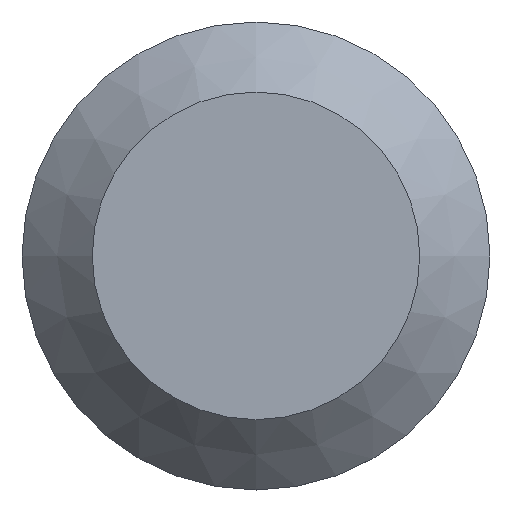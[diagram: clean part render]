
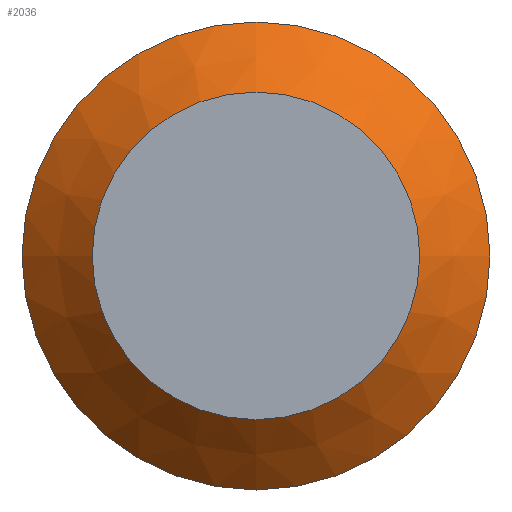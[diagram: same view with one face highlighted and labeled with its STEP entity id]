
A CAD part, top view. The second image highlights one B-rep face of the part: STEP entity #2036.
In plain terms, the highlighted conical face has half-angle 45 degrees and reference radius 20 mm.
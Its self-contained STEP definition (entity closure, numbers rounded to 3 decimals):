
#1970 = CYLINDRICAL_SURFACE('',#1971,20.);
#1971 = AXIS2_PLACEMENT_3D('',#1972,#1973,#1974);
#1972 = CARTESIAN_POINT('',(0.,0.,19.));
#1973 = DIRECTION('',(0.,0.,1.));
#1974 = DIRECTION('',(1.,0.,0.));
#1987 = VERTEX_POINT('',#1988);
#1988 = CARTESIAN_POINT('',(20.,0.,19.5));
#2009 = EDGE_CURVE('',#1987,#1987,#2010,.T.);
#2010 = SURFACE_CURVE('',#2011,(#2016,#2023),.PCURVE_S1.);
#2011 = CIRCLE('',#2012,20.);
#2012 = AXIS2_PLACEMENT_3D('',#2013,#2014,#2015);
#2013 = CARTESIAN_POINT('',(0.,0.,19.5));
#2014 = DIRECTION('',(0.,0.,-1.));
#2015 = DIRECTION('',(1.,0.,0.));
#2016 = PCURVE('',#1970,#2017);
#2017 = DEFINITIONAL_REPRESENTATION('',(#2018),#2022);
#2018 = LINE('',#2019,#2020);
#2019 = CARTESIAN_POINT('',(-0.,0.5));
#2020 = VECTOR('',#2021,1.);
#2021 = DIRECTION('',(-1.,0.));
#2022 = ( GEOMETRIC_REPRESENTATION_CONTEXT(2) 
PARAMETRIC_REPRESENTATION_CONTEXT() REPRESENTATION_CONTEXT('2D SPACE',''
  ) );
#2023 = PCURVE('',#2024,#2029);
#2024 = CONICAL_SURFACE('',#2025,20.,0.785);
#2025 = AXIS2_PLACEMENT_3D('',#2026,#2027,#2028);
#2026 = CARTESIAN_POINT('',(0.,0.,19.5));
#2027 = DIRECTION('',(-0.,0.,-1.));
#2028 = DIRECTION('',(1.,0.,0.));
#2029 = DEFINITIONAL_REPRESENTATION('',(#2030),#2034);
#2030 = LINE('',#2031,#2032);
#2031 = CARTESIAN_POINT('',(0.,-0.));
#2032 = VECTOR('',#2033,1.);
#2033 = DIRECTION('',(1.,-0.));
#2034 = ( GEOMETRIC_REPRESENTATION_CONTEXT(2) 
PARAMETRIC_REPRESENTATION_CONTEXT() REPRESENTATION_CONTEXT('2D SPACE',''
  ) );
#2036 = ADVANCED_FACE('',(#2037),#2024,.T.);
#2037 = FACE_BOUND('',#2038,.F.);
#2038 = EDGE_LOOP('',(#2039,#2040,#2063,#2090));
#2039 = ORIENTED_EDGE('',*,*,#2009,.T.);
#2040 = ORIENTED_EDGE('',*,*,#2041,.T.);
#2041 = EDGE_CURVE('',#1987,#2042,#2044,.T.);
#2042 = VERTEX_POINT('',#2043);
#2043 = CARTESIAN_POINT('',(14.,0.,25.5));
#2044 = SEAM_CURVE('',#2045,(#2049,#2056),.PCURVE_S1.);
#2045 = LINE('',#2046,#2047);
#2046 = CARTESIAN_POINT('',(20.,0.,19.5));
#2047 = VECTOR('',#2048,1.);
#2048 = DIRECTION('',(-0.707,0.,0.707
    ));
#2049 = PCURVE('',#2024,#2050);
#2050 = DEFINITIONAL_REPRESENTATION('',(#2051),#2055);
#2051 = LINE('',#2052,#2053);
#2052 = CARTESIAN_POINT('',(0.,-0.));
#2053 = VECTOR('',#2054,1.);
#2054 = DIRECTION('',(0.,-1.));
#2055 = ( GEOMETRIC_REPRESENTATION_CONTEXT(2) 
PARAMETRIC_REPRESENTATION_CONTEXT() REPRESENTATION_CONTEXT('2D SPACE',''
  ) );
#2056 = PCURVE('',#2024,#2057);
#2057 = DEFINITIONAL_REPRESENTATION('',(#2058),#2062);
#2058 = LINE('',#2059,#2060);
#2059 = CARTESIAN_POINT('',(6.283,-0.));
#2060 = VECTOR('',#2061,1.);
#2061 = DIRECTION('',(0.,-1.));
#2062 = ( GEOMETRIC_REPRESENTATION_CONTEXT(2) 
PARAMETRIC_REPRESENTATION_CONTEXT() REPRESENTATION_CONTEXT('2D SPACE',''
  ) );
#2063 = ORIENTED_EDGE('',*,*,#2064,.F.);
#2064 = EDGE_CURVE('',#2042,#2042,#2065,.T.);
#2065 = SURFACE_CURVE('',#2066,(#2071,#2078),.PCURVE_S1.);
#2066 = CIRCLE('',#2067,14.);
#2067 = AXIS2_PLACEMENT_3D('',#2068,#2069,#2070);
#2068 = CARTESIAN_POINT('',(0.,0.,25.5));
#2069 = DIRECTION('',(0.,0.,-1.));
#2070 = DIRECTION('',(1.,0.,0.));
#2071 = PCURVE('',#2024,#2072);
#2072 = DEFINITIONAL_REPRESENTATION('',(#2073),#2077);
#2073 = LINE('',#2074,#2075);
#2074 = CARTESIAN_POINT('',(0.,-6.));
#2075 = VECTOR('',#2076,1.);
#2076 = DIRECTION('',(1.,-0.));
#2077 = ( GEOMETRIC_REPRESENTATION_CONTEXT(2) 
PARAMETRIC_REPRESENTATION_CONTEXT() REPRESENTATION_CONTEXT('2D SPACE',''
  ) );
#2078 = PCURVE('',#2079,#2084);
#2079 = PLANE('',#2080);
#2080 = AXIS2_PLACEMENT_3D('',#2081,#2082,#2083);
#2081 = CARTESIAN_POINT('',(0.,0.,25.5));
#2082 = DIRECTION('',(-0.,0.,-1.));
#2083 = DIRECTION('',(1.,0.,0.));
#2084 = DEFINITIONAL_REPRESENTATION('',(#2085),#2089);
#2085 = CIRCLE('',#2086,14.);
#2086 = AXIS2_PLACEMENT_2D('',#2087,#2088);
#2087 = CARTESIAN_POINT('',(0.,0.));
#2088 = DIRECTION('',(1.,0.));
#2089 = ( GEOMETRIC_REPRESENTATION_CONTEXT(2) 
PARAMETRIC_REPRESENTATION_CONTEXT() REPRESENTATION_CONTEXT('2D SPACE',''
  ) );
#2090 = ORIENTED_EDGE('',*,*,#2041,.F.);
